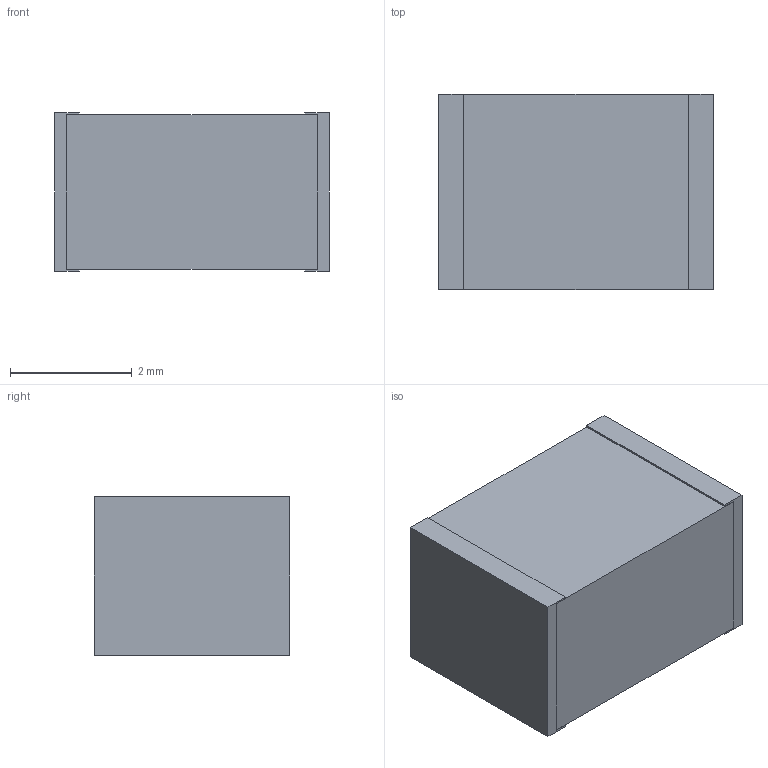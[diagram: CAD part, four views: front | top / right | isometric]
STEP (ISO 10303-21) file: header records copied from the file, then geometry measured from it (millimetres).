
FILE_DESCRIPTION(('HOOPS Exchange Step'),'2;1');
FILE_NAME('C:\Users\knoguchi\Desktop\STP\C4.stp','2021-07-20T10:08:49+09:00',('knoguchi'),('Unknown organisation'),'HOOPS Exchange 2021.1','HOOPS Exchange','Unknown authorisation');
FILE_SCHEMA( ('AP203_CONFIGURATION_CONTROLLED_3D_DESIGN_OF_MECHANICAL_PARTS_AND_ASSEMBLIES_MIM_LF') );
Length unit declared in the file: millimetre
Products named in the file (1): Export
Bounding box: 4.5 x 3.2 x 2.6 mm (x, y, z)
Volume: 36.7 mm3; surface area: 106.4 mm2
Topology: 3 solids, 3 shells, 26 faces, 60 edges, 40 vertices
Faces by surface type: plane 26
Entity records: 679 total; most frequent: CARTESIAN_POINT 187, ORIENTED_EDGE 120, B_SPLINE_CURVE_WITH_KNOTS 60, EDGE_CURVE 60, DIRECTION 54, VERTEX_POINT 40, AXIS2_PLACEMENT_3D 27, PLANE 26
